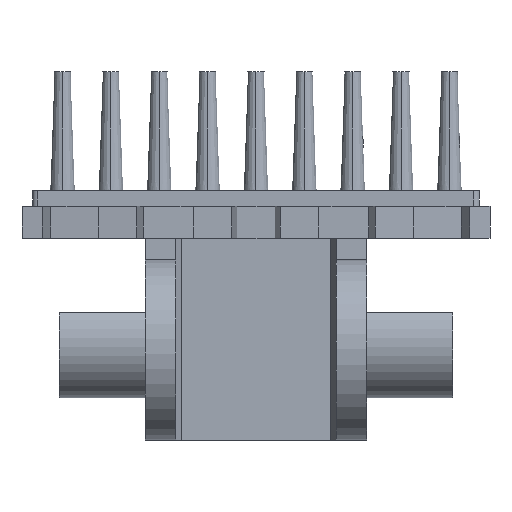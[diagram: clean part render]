
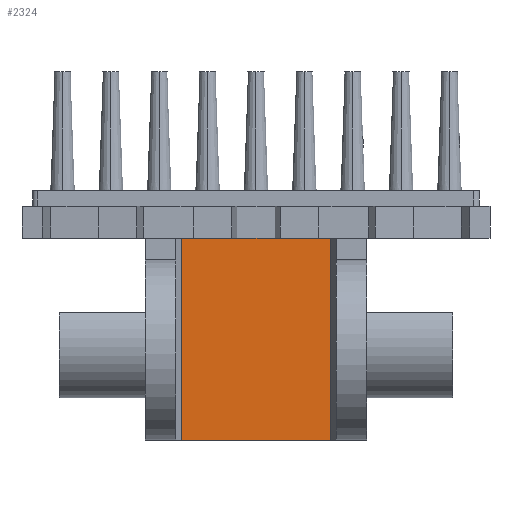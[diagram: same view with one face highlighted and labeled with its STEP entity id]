
A CAD part, left-side view. The second image highlights one B-rep face of the part: STEP entity #2324.
In plain terms, the highlighted planar face has unit normal (-1, 0, 0).
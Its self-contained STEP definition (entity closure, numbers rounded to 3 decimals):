
#7 = EDGE_LOOP ( 'NONE', ( #1458, #1459, #1460, #1461 ) ) ;
#792 = CARTESIAN_POINT ( 'NONE',  ( -2.45, 7., -3.95 ) ) ;
#891 = CARTESIAN_POINT ( 'NONE',  ( -2.45, 7., 15.05 ) ) ;
#893 = CARTESIAN_POINT ( 'NONE',  ( -2.45, -7., 15.05 ) ) ;
#902 = CARTESIAN_POINT ( 'NONE',  ( -2.45, -7., -3.95 ) ) ;
#1189 = VERTEX_POINT ( 'NONE', #792 ) ;
#1458 = ORIENTED_EDGE ( 'NONE', *, *, #3135, .T. ) ;
#1459 = ORIENTED_EDGE ( 'NONE', *, *, #2194, .T. ) ;
#1460 = ORIENTED_EDGE ( 'NONE', *, *, #3083, .T. ) ;
#1461 = ORIENTED_EDGE ( 'NONE', *, *, #2182, .T. ) ;
#1599 = VERTEX_POINT ( 'NONE', #891 ) ;
#1601 = VERTEX_POINT ( 'NONE', #893 ) ;
#1610 = VERTEX_POINT ( 'NONE', #902 ) ;
#2182 = EDGE_CURVE ( 'NONE', #1610, #1601, #2695, .T. ) ;
#2194 = EDGE_CURVE ( 'NONE', #1599, #1189, #2697, .T. ) ;
#2324 = ADVANCED_FACE ( 'NONE', ( #2910 ), #3533, .T. ) ;
#2542 = AXIS2_PLACEMENT_3D ( 'NONE', #3526, #3535, #3536 ) ;
#2695 = LINE ( 'NONE', #5449, #2698 ) ;
#2697 = LINE ( 'NONE', #5412, #2722 ) ;
#2698 = VECTOR ( 'NONE', #5451, 1000. ) ;
#2722 = VECTOR ( 'NONE', #5473, 1000. ) ;
#2910 = FACE_OUTER_BOUND ( 'NONE', #7, .T. ) ;
#3083 = EDGE_CURVE ( 'NONE', #1189, #1610, #3994, .T. ) ;
#3135 = EDGE_CURVE ( 'NONE', #1601, #1599, #4095, .T. ) ;
#3526 = CARTESIAN_POINT ( 'NONE',  ( -2.45, 7., 13.05 ) ) ;
#3533 = PLANE ( 'NONE',  #2542 ) ;
#3535 = DIRECTION ( 'NONE',  ( -1., 0., 0. ) ) ;
#3536 = DIRECTION ( 'NONE',  ( 0., -1., 0. ) ) ;
#3994 = LINE ( 'NONE', #4464, #3997 ) ;
#3997 = VECTOR ( 'NONE', #4465, 1000. ) ;
#4095 = LINE ( 'NONE', #4569, #4098 ) ;
#4098 = VECTOR ( 'NONE', #4570, 1000. ) ;
#4464 = CARTESIAN_POINT ( 'NONE',  ( -2.45, 7., -3.95 ) ) ;
#4465 = DIRECTION ( 'NONE',  ( 0., -1., 0. ) ) ;
#4569 = CARTESIAN_POINT ( 'NONE',  ( -2.45, 0.031, 15.05 ) ) ;
#4570 = DIRECTION ( 'NONE',  ( 0., 1., 0. ) ) ;
#5412 = CARTESIAN_POINT ( 'NONE',  ( -2.45, 7., 13.05 ) ) ;
#5449 = CARTESIAN_POINT ( 'NONE',  ( -2.45, -7., 13.05 ) ) ;
#5451 = DIRECTION ( 'NONE',  ( 0., 0., 1. ) ) ;
#5473 = DIRECTION ( 'NONE',  ( 0., 0., -1. ) ) ;
